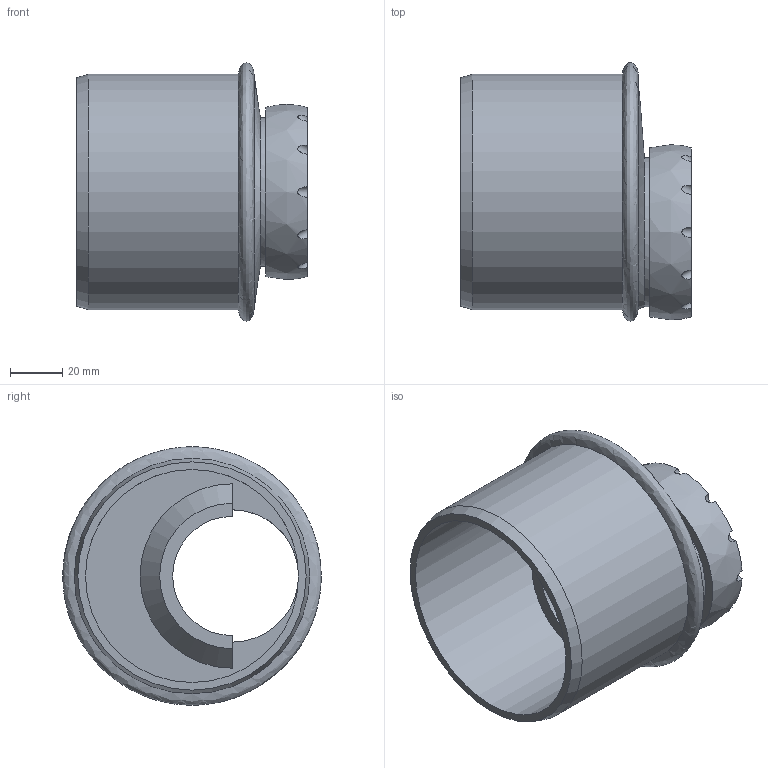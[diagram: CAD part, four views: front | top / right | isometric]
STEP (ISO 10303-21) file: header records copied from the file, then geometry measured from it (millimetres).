
FILE_DESCRIPTION(/* description */ (''),/* implementation_level */ '2;1');
FILE_NAME(/* name */ 'H:\Geberit-Teile\Export\Reduktion_ART\stp\393472.stp',/* time_stamp */ '2017-02-28T08:32:02+01:00',/* author */ ('seihe2'),/* organization */ (''),/* preprocessor_version */ 'ST-DEVELOPER v15.2',/* originating_system */ 'Autodesk Inventor 2014',/* authorisation */ '');
FILE_SCHEMA (('AUTOMOTIVE_DESIGN { 1 0 10303 214 3 1 1 }'));
Length unit declared in the file: millimetre
Products named in the file (1): 393472
Bounding box: 88.4 x 99 x 99 mm (x, y, z)
Volume: 135460.2 mm3; surface area: 64114.3 mm2
Topology: 1 solids, 1 shells, 35 faces, 89 edges, 59 vertices
Faces by surface type: cylinder 20, plane 10, bspline 3, cone 2
Full cylindrical faces by diameter (mm): 50.7 x1, 51 x1, 57 x1, 60.1 x1, 81.6 x1, 90.2 x1
Entity records: 1573 total; most frequent: CARTESIAN_POINT 686, DIRECTION 182, ORIENTED_EDGE 160, AXIS2_PLACEMENT_3D 84, EDGE_CURVE 80, VERTEX_POINT 57, EDGE_LOOP 47, CIRCLE 38
